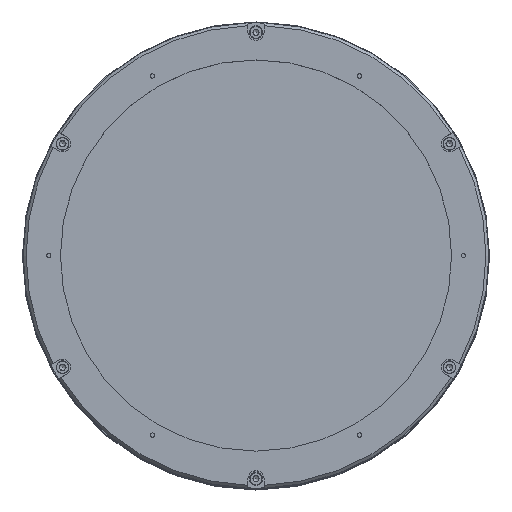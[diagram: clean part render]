
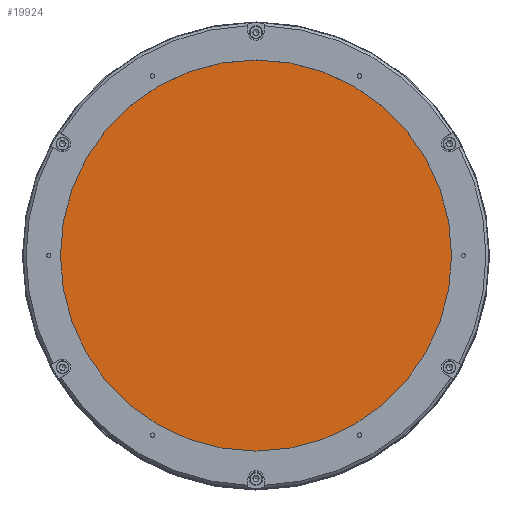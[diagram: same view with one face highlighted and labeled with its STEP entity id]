
A CAD part, top view. The second image highlights one B-rep face of the part: STEP entity #19924.
In plain terms, the highlighted planar face has unit normal (0, 0, 1).
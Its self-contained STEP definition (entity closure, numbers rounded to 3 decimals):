
#5307 = PLANE ( 'NONE',  #12420 ) ;
#5520 = EDGE_LOOP ( 'NONE', ( #9852 ) ) ;
#5809 = FACE_OUTER_BOUND ( 'NONE', #5520, .T. ) ;
#5987 = DIRECTION ( 'NONE',  ( 1., 0., 0. ) ) ;
#7630 = CARTESIAN_POINT ( 'NONE',  ( 0., 0., 262.5 ) ) ;
#9175 = EDGE_CURVE ( 'NONE', #11801, #11801, #14258, .T. ) ;
#9852 = ORIENTED_EDGE ( 'NONE', *, *, #9175, .T. ) ;
#11801 = VERTEX_POINT ( 'NONE', #17091 ) ;
#12420 = AXIS2_PLACEMENT_3D ( 'NONE', #14640, #16696, #16284 ) ;
#12808 = AXIS2_PLACEMENT_3D ( 'NONE', #7630, #15307, #5987 ) ;
#14258 = CIRCLE ( 'NONE', #12808, 67. ) ;
#14640 = CARTESIAN_POINT ( 'NONE',  ( 0., 0., 262.5 ) ) ;
#15307 = DIRECTION ( 'NONE',  ( 0., 0., 1. ) ) ;
#16284 = DIRECTION ( 'NONE',  ( -1., 0., 0. ) ) ;
#16696 = DIRECTION ( 'NONE',  ( 0., 0., -1. ) ) ;
#17091 = CARTESIAN_POINT ( 'NONE',  ( 67., 0., 262.5 ) ) ;
#19924 = ADVANCED_FACE ( 'NONE', ( #5809 ), #5307, .F. ) ;
